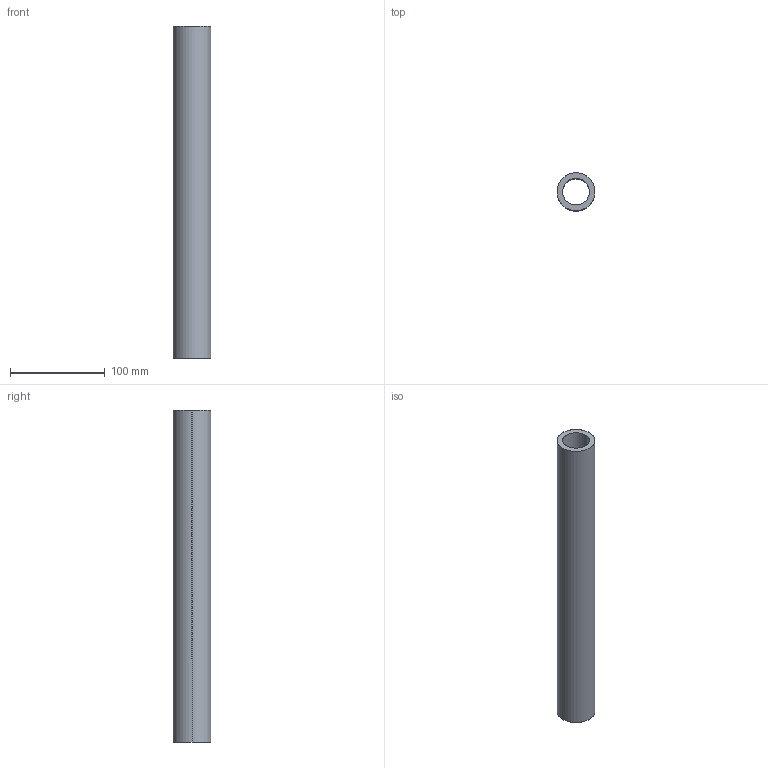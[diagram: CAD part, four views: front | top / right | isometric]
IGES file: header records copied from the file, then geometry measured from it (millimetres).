
Start section: SolidWorks IGES file using analytic representation for surfaces
Global section: file name: C:\Users\IanO\Desktop\L1771_v2\L1771.40_v2\L1771.40_v2_20230705_IGES\L1771.40-0350.igs; native system: SolidWorks 2019; preprocessor: SolidWorks 2019; author: IanO; date: 230705.155914; units: millimetre
Bounding box: 40 x 40 x 350 mm (x, y, z)
Surface area: 76051.7 mm2 (no closed solid volume)
Topology: 0 solids, 0 shells, 6 faces, 272 edges, 272 vertices
Faces by surface type: revolution 4, bspline 2
